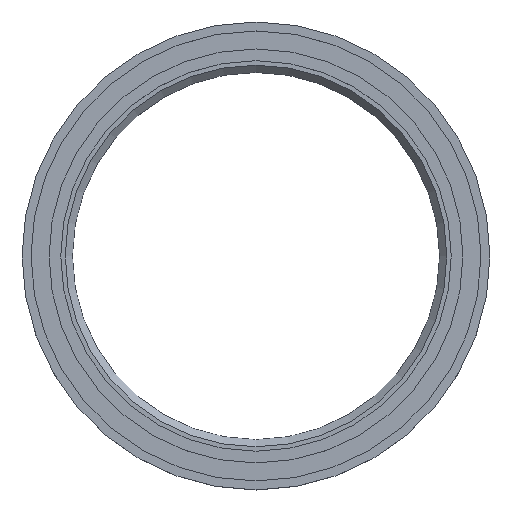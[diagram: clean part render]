
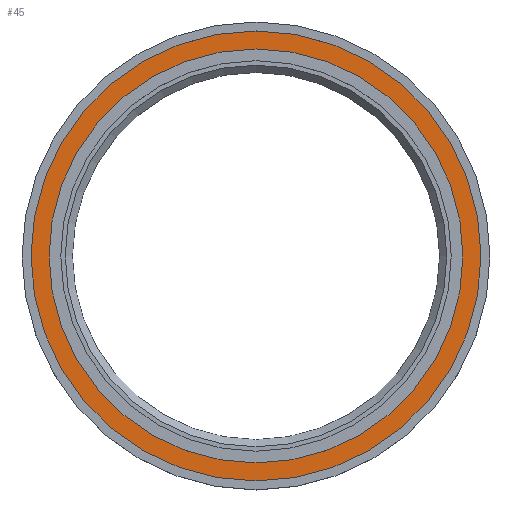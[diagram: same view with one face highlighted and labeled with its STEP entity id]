
A CAD part, top view. The second image highlights one B-rep face of the part: STEP entity #45.
In plain terms, the highlighted planar face has unit normal (0, 0, 1).
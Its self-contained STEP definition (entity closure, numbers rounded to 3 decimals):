
#45 = ADVANCED_FACE( '', ( #96, #97 ), #98, .F. );
#96 = FACE_OUTER_BOUND( '', #155, .T. );
#97 = FACE_BOUND( '', #156, .T. );
#98 = PLANE( '', #157 );
#155 = EDGE_LOOP( '', ( #216 ) );
#156 = EDGE_LOOP( '', ( #217 ) );
#157 = AXIS2_PLACEMENT_3D( '', #218, #219, #220 );
#216 = ORIENTED_EDGE( '', *, *, #281, .F. );
#217 = ORIENTED_EDGE( '', *, *, #282, .T. );
#218 = CARTESIAN_POINT( '', ( -62.5, 0., 10. ) );
#219 = DIRECTION( '', ( 0., 0., -1. ) );
#220 = DIRECTION( '', ( -1., 0., 0. ) );
#281 = EDGE_CURVE( '', #314, #314, #315, .T. );
#282 = EDGE_CURVE( '', #316, #316, #317, .T. );
#314 = VERTEX_POINT( '', #353 );
#315 = CIRCLE( '', #354, 62.5 );
#316 = VERTEX_POINT( '', #355 );
#317 = CIRCLE( '', #356, 57.5 );
#353 = CARTESIAN_POINT( '', ( -62.5, 0., 10. ) );
#354 = AXIS2_PLACEMENT_3D( '', #394, #395, #396 );
#355 = CARTESIAN_POINT( '', ( -57.5, 0., 10. ) );
#356 = AXIS2_PLACEMENT_3D( '', #397, #398, #399 );
#394 = CARTESIAN_POINT( '', ( 0., 0., 10. ) );
#395 = DIRECTION( '', ( 0., 0., -1. ) );
#396 = DIRECTION( '', ( -1., 0., 0. ) );
#397 = CARTESIAN_POINT( '', ( 0., 0., 10. ) );
#398 = DIRECTION( '', ( 0., 0., -1. ) );
#399 = DIRECTION( '', ( -1., 0., 0. ) );
